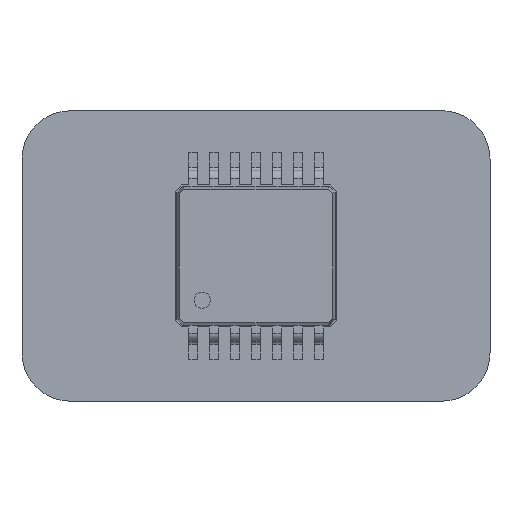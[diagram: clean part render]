
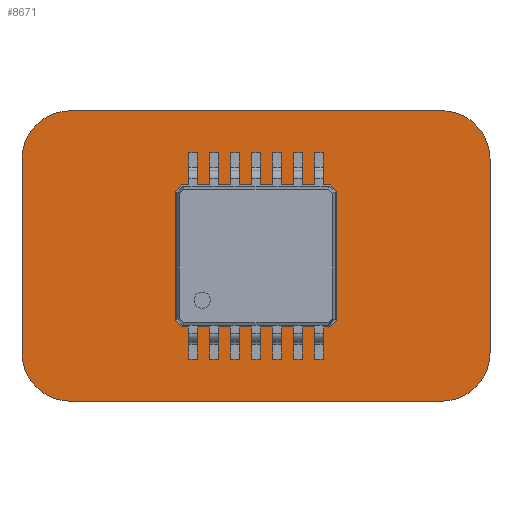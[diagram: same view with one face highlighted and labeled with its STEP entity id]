
A CAD part, top view. The second image highlights one B-rep face of the part: STEP entity #8671.
In plain terms, the highlighted planar face has unit normal (0, 0, 1).
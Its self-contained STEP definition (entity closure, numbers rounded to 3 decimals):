
#8406 = VERTEX_POINT('',#8407);
#8407 = CARTESIAN_POINT('',(5.75,4.5,0.8));
#8413 = EDGE_CURVE('',#8406,#8414,#8416,.T.);
#8414 = VERTEX_POINT('',#8415);
#8415 = CARTESIAN_POINT('',(7.25,3.,0.8));
#8416 = CIRCLE('',#8417,1.497);
#8417 = AXIS2_PLACEMENT_3D('',#8418,#8419,#8420);
#8418 = CARTESIAN_POINT('',(5.753,3.003,0.8));
#8419 = DIRECTION('',(0.,0.,-1.));
#8420 = DIRECTION('',(-0.002,1.,0.));
#8446 = EDGE_CURVE('',#8414,#8447,#8449,.T.);
#8447 = VERTEX_POINT('',#8448);
#8448 = CARTESIAN_POINT('',(7.25,-3.,0.8));
#8449 = LINE('',#8450,#8451);
#8450 = CARTESIAN_POINT('',(7.25,3.,0.8));
#8451 = VECTOR('',#8452,1.);
#8452 = DIRECTION('',(0.,-1.,0.));
#8477 = EDGE_CURVE('',#8447,#8478,#8480,.T.);
#8478 = VERTEX_POINT('',#8479);
#8479 = CARTESIAN_POINT('',(5.75,-4.5,0.8));
#8480 = CIRCLE('',#8481,1.5);
#8481 = AXIS2_PLACEMENT_3D('',#8482,#8483,#8484);
#8482 = CARTESIAN_POINT('',(5.75,-3.,0.8));
#8483 = DIRECTION('',(0.,0.,-1.));
#8484 = DIRECTION('',(1.,0.,0.));
#8510 = EDGE_CURVE('',#8478,#8511,#8513,.T.);
#8511 = VERTEX_POINT('',#8512);
#8512 = CARTESIAN_POINT('',(-5.75,-4.5,0.8));
#8513 = LINE('',#8514,#8515);
#8514 = CARTESIAN_POINT('',(5.75,-4.5,0.8));
#8515 = VECTOR('',#8516,1.);
#8516 = DIRECTION('',(-1.,0.,0.));
#8541 = EDGE_CURVE('',#8511,#8542,#8544,.T.);
#8542 = VERTEX_POINT('',#8543);
#8543 = CARTESIAN_POINT('',(-7.25,-3.,0.8));
#8544 = CIRCLE('',#8545,1.5);
#8545 = AXIS2_PLACEMENT_3D('',#8546,#8547,#8548);
#8546 = CARTESIAN_POINT('',(-5.75,-3.,0.8));
#8547 = DIRECTION('',(0.,0.,-1.));
#8548 = DIRECTION('',(0.,-1.,-0.));
#8574 = EDGE_CURVE('',#8542,#8575,#8577,.T.);
#8575 = VERTEX_POINT('',#8576);
#8576 = CARTESIAN_POINT('',(-7.25,3.,0.8));
#8577 = LINE('',#8578,#8579);
#8578 = CARTESIAN_POINT('',(-7.25,-3.,0.8));
#8579 = VECTOR('',#8580,1.);
#8580 = DIRECTION('',(0.,1.,0.));
#8605 = EDGE_CURVE('',#8575,#8606,#8608,.T.);
#8606 = VERTEX_POINT('',#8607);
#8607 = CARTESIAN_POINT('',(-5.75,4.5,0.8));
#8608 = CIRCLE('',#8609,1.5);
#8609 = AXIS2_PLACEMENT_3D('',#8610,#8611,#8612);
#8610 = CARTESIAN_POINT('',(-5.75,3.,0.8));
#8611 = DIRECTION('',(0.,0.,-1.));
#8612 = DIRECTION('',(-1.,0.,0.));
#8638 = EDGE_CURVE('',#8606,#8406,#8639,.T.);
#8639 = LINE('',#8640,#8641);
#8640 = CARTESIAN_POINT('',(-5.75,4.5,0.8));
#8641 = VECTOR('',#8642,1.);
#8642 = DIRECTION('',(1.,0.,0.));
#8671 = ADVANCED_FACE('',(#8672),#8682,.T.);
#8672 = FACE_BOUND('',#8673,.F.);
#8673 = EDGE_LOOP('',(#8674,#8675,#8676,#8677,#8678,#8679,#8680,#8681));
#8674 = ORIENTED_EDGE('',*,*,#8413,.T.);
#8675 = ORIENTED_EDGE('',*,*,#8446,.T.);
#8676 = ORIENTED_EDGE('',*,*,#8477,.T.);
#8677 = ORIENTED_EDGE('',*,*,#8510,.T.);
#8678 = ORIENTED_EDGE('',*,*,#8541,.T.);
#8679 = ORIENTED_EDGE('',*,*,#8574,.T.);
#8680 = ORIENTED_EDGE('',*,*,#8605,.T.);
#8681 = ORIENTED_EDGE('',*,*,#8638,.T.);
#8682 = PLANE('',#8683);
#8683 = AXIS2_PLACEMENT_3D('',#8684,#8685,#8686);
#8684 = CARTESIAN_POINT('',(0.,0.,0.8));
#8685 = DIRECTION('',(0.,0.,1.));
#8686 = DIRECTION('',(1.,0.,-0.));
